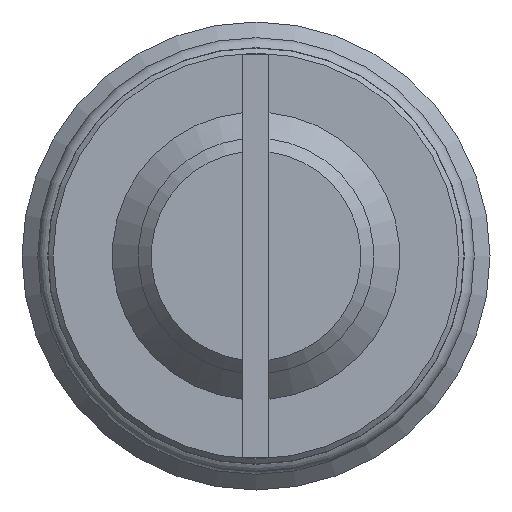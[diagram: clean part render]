
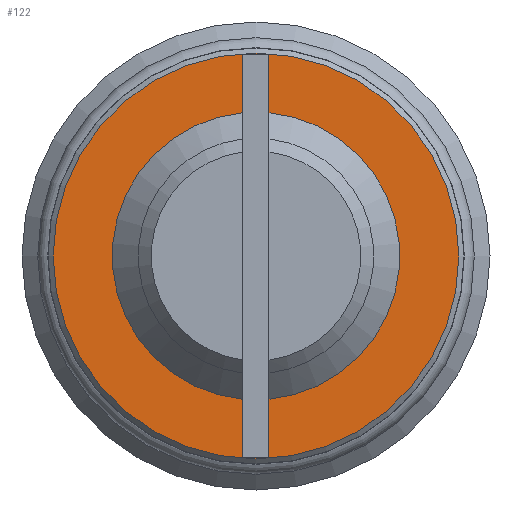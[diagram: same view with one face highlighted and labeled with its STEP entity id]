
A CAD part, left-side view. The second image highlights one B-rep face of the part: STEP entity #122.
In plain terms, the highlighted planar face has unit normal (-1, 0, 0).
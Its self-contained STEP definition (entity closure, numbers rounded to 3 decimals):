
#122 = ADVANCED_FACE( '', ( #275, #276 ), #277, .F. );
#275 = FACE_OUTER_BOUND( '', #460, .T. );
#276 = FACE_BOUND( '', #461, .T. );
#277 = PLANE( '', #462 );
#460 = EDGE_LOOP( '', ( #742 ) );
#461 = EDGE_LOOP( '', ( #743, #744, #745, #746, #747, #748, #749, #750 ) );
#462 = AXIS2_PLACEMENT_3D( '', #751, #752, #753 );
#742 = ORIENTED_EDGE( '', *, *, #1082, .F. );
#743 = ORIENTED_EDGE( '', *, *, #1083, .T. );
#744 = ORIENTED_EDGE( '', *, *, #1084, .T. );
#745 = ORIENTED_EDGE( '', *, *, #1006, .T. );
#746 = ORIENTED_EDGE( '', *, *, #1026, .T. );
#747 = ORIENTED_EDGE( '', *, *, #1085, .T. );
#748 = ORIENTED_EDGE( '', *, *, #1029, .T. );
#749 = ORIENTED_EDGE( '', *, *, #1042, .T. );
#750 = ORIENTED_EDGE( '', *, *, #1086, .T. );
#751 = CARTESIAN_POINT( '', ( 0., 0., 0. ) );
#752 = DIRECTION( '', ( 1., 0., 0. ) );
#753 = DIRECTION( '', ( 0., 0., -1. ) );
#1006 = EDGE_CURVE( '', #1184, #1185, #1186, .T. );
#1026 = EDGE_CURVE( '', #1185, #1217, #1220, .T. );
#1029 = EDGE_CURVE( '', #1225, #1223, #1226, .T. );
#1042 = EDGE_CURVE( '', #1223, #1246, #1247, .T. );
#1082 = EDGE_CURVE( '', #1303, #1303, #1304, .T. );
#1083 = EDGE_CURVE( '', #1305, #1306, #1307, .T. );
#1084 = EDGE_CURVE( '', #1306, #1184, #1308, .T. );
#1085 = EDGE_CURVE( '', #1217, #1225, #1309, .T. );
#1086 = EDGE_CURVE( '', #1246, #1305, #1310, .T. );
#1184 = VERTEX_POINT( '', #1443 );
#1185 = VERTEX_POINT( '', #1444 );
#1186 = LINE( '', #1445, #1446 );
#1217 = VERTEX_POINT( '', #1484 );
#1220 = LINE( '', #1490, #1491 );
#1223 = VERTEX_POINT( '', #1495 );
#1225 = VERTEX_POINT( '', #1498 );
#1226 = LINE( '', #1499, #1500 );
#1246 = VERTEX_POINT( '', #1534 );
#1247 = LINE( '', #1535, #1536 );
#1303 = VERTEX_POINT( '', #1619 );
#1304 = CIRCLE( '', #1620, 7.8 );
#1305 = VERTEX_POINT( '', #1621 );
#1306 = VERTEX_POINT( '', #1622 );
#1307 = CIRCLE( '', #1623, 5.53 );
#1308 = LINE( '', #1624, #1625 );
#1309 = CIRCLE( '', #1626, 5.53 );
#1310 = LINE( '', #1627, #1628 );
#1443 = CARTESIAN_POINT( '', ( 0., -0.5, -7.75 ) );
#1444 = CARTESIAN_POINT( '', ( 0., 0.5, -7.75 ) );
#1445 = CARTESIAN_POINT( '', ( 0., -0.5, -7.75 ) );
#1446 = VECTOR( '', #1751, 1000. );
#1484 = CARTESIAN_POINT( '', ( 0., 0.5, -5.507 ) );
#1490 = CARTESIAN_POINT( '', ( 0., 0.5, -7.75 ) );
#1491 = VECTOR( '', #1777, 1000. );
#1495 = CARTESIAN_POINT( '', ( 0., 0.5, 7.75 ) );
#1498 = CARTESIAN_POINT( '', ( 0., 0.5, 5.507 ) );
#1499 = CARTESIAN_POINT( '', ( 0., 0.5, -7.75 ) );
#1500 = VECTOR( '', #1780, 1000. );
#1534 = CARTESIAN_POINT( '', ( 0., -0.5, 7.75 ) );
#1535 = CARTESIAN_POINT( '', ( 0., 0.5, 7.75 ) );
#1536 = VECTOR( '', #1789, 1000. );
#1619 = CARTESIAN_POINT( '', ( 0., 0., -7.8 ) );
#1620 = AXIS2_PLACEMENT_3D( '', #1833, #1834, #1835 );
#1621 = CARTESIAN_POINT( '', ( 0., -0.5, 5.507 ) );
#1622 = CARTESIAN_POINT( '', ( 0., -0.5, -5.507 ) );
#1623 = AXIS2_PLACEMENT_3D( '', #1836, #1837, #1838 );
#1624 = CARTESIAN_POINT( '', ( 0., -0.5, 7.75 ) );
#1625 = VECTOR( '', #1839, 1000. );
#1626 = AXIS2_PLACEMENT_3D( '', #1840, #1841, #1842 );
#1627 = CARTESIAN_POINT( '', ( 0., -0.5, 7.75 ) );
#1628 = VECTOR( '', #1843, 1000. );
#1751 = DIRECTION( '', ( 0., 1., 0. ) );
#1777 = DIRECTION( '', ( 0., 0., 1. ) );
#1780 = DIRECTION( '', ( 0., 0., 1. ) );
#1789 = DIRECTION( '', ( 0., -1., 0. ) );
#1833 = CARTESIAN_POINT( '', ( 0., 0., 0. ) );
#1834 = DIRECTION( '', ( 1., 0., 0. ) );
#1835 = DIRECTION( '', ( 0., 0., -1. ) );
#1836 = CARTESIAN_POINT( '', ( 0., 0., 0. ) );
#1837 = DIRECTION( '', ( 1., 0., 0. ) );
#1838 = DIRECTION( '', ( 0., 0., -1. ) );
#1839 = DIRECTION( '', ( 0., 0., -1. ) );
#1840 = CARTESIAN_POINT( '', ( 0., 0., 0. ) );
#1841 = DIRECTION( '', ( 1., 0., 0. ) );
#1842 = DIRECTION( '', ( 0., 0., -1. ) );
#1843 = DIRECTION( '', ( 0., 0., -1. ) );
